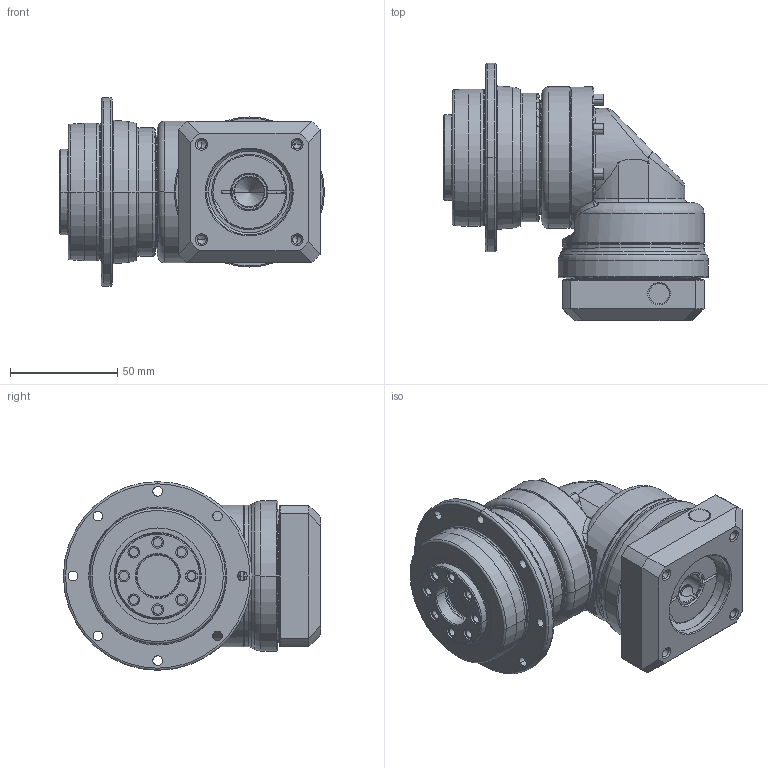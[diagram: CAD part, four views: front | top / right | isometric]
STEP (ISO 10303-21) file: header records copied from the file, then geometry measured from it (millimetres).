
FILE_DESCRIPTION((''),'2;1');
FILE_NAME('PDR064_1ST_14-P0411300101_ASM','2016-06-04T',('d01943'),(''),'PRO/ENGINEER BY PARAMETRIC TECHNOLOGY CORPORATION, 2008410','PRO/ENGINEER BY PARAMETRIC TECHNOLOGY CORPORATION, 2008410','');
FILE_SCHEMA(('CONFIG_CONTROL_DESIGN'));
Length unit declared in the file: millimetre
Products named in the file (10): P1355200001; P0367200001; P0274200001; P1349200001; P1017200001; P1350200201; P0411300101; P0503300005; P0713200201; PDR064_1ST_14-P0411300101_ASM
Assembly tree (9 placements, depth 2):
  PDR064_1ST_14-P0411300101_ASM
    P1355200001
    P0367200001
    P0274200001
    P1349200001
    P1017200001
    P1350200201
    P0411300101
    P0503300005
    P0713200201
Bounding box: 123.5 x 120 x 88 mm (x, y, z)
Volume: 410521.1 mm3; surface area: 106921.1 mm2
Topology: 9 solids, 9 shells, 556 faces, 1266 edges, 740 vertices
Faces by surface type: cylinder 190, cone 166, plane 90, torus 80, bspline 30
Entity records: 18222 total; most frequent: CARTESIAN_POINT 5562, DIRECTION 2812, ORIENTED_EDGE 2448, EDGE_CURVE 1224, AXIS2_PLACEMENT_3D 1197, VERTEX_POINT 740, EDGE_LOOP 654, CIRCLE 652
